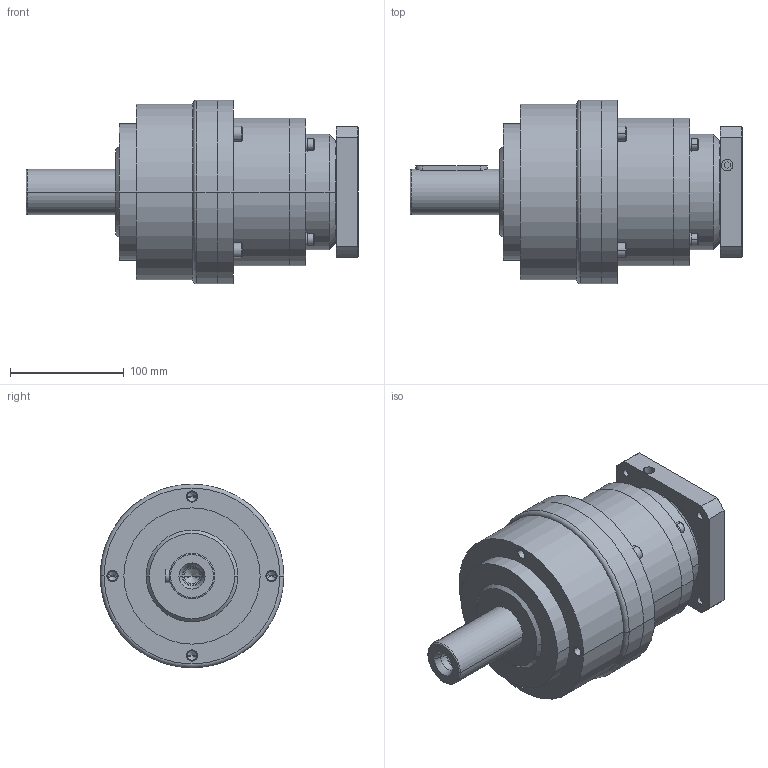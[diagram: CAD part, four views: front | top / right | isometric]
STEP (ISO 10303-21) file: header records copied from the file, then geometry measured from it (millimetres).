
FILE_DESCRIPTION((''),'2;1');
FILE_NAME('AE1552-P4140301_ASM','2005-10-31T',('D4016'),(''),'PRO/ENGINEER BY PARAMETRIC TECHNOLOGY CORPORATION, 2001280','PRO/ENGINEER BY PARAMETRIC TECHNOLOGY CORPORATION, 2001280','');
FILE_SCHEMA(('CONFIG_CONTROL_DESIGN'));
Length unit declared in the file: millimetre
Products named in the file (10): AE155-2; P245; 220120803; RG-SET3-5_ASM; PK740001; 233100004; 220100703; COVER-SET-4_ASM; P4140301; AE1552-P4140301_ASM
Assembly tree (18 placements, depth 3):
  AE1552-P4140301_ASM
    AE155-2
    RG-SET3-5_ASM
      P245
      220120803  x4
    COVER-SET-4_ASM
      PK740001
      233100004  x4
      220100703  x4
    P4140301
Bounding box: 292.5 x 162 x 162 mm (x, y, z)
Volume: 3127916.4 mm3; surface area: 274766.9 mm2
Topology: 16 solids, 25 shells, 472 faces, 1032 edges, 625 vertices
Faces by surface type: cylinder 195, plane 189, cone 60, torus 28
Entity records: 7937 total; most frequent: DIRECTION 1478, CARTESIAN_POINT 1446, ORIENTED_EDGE 1144, AXIS2_PLACEMENT_3D 605, EDGE_CURVE 590, VERTEX_POINT 373, EDGE_LOOP 325, CIRCLE 297
